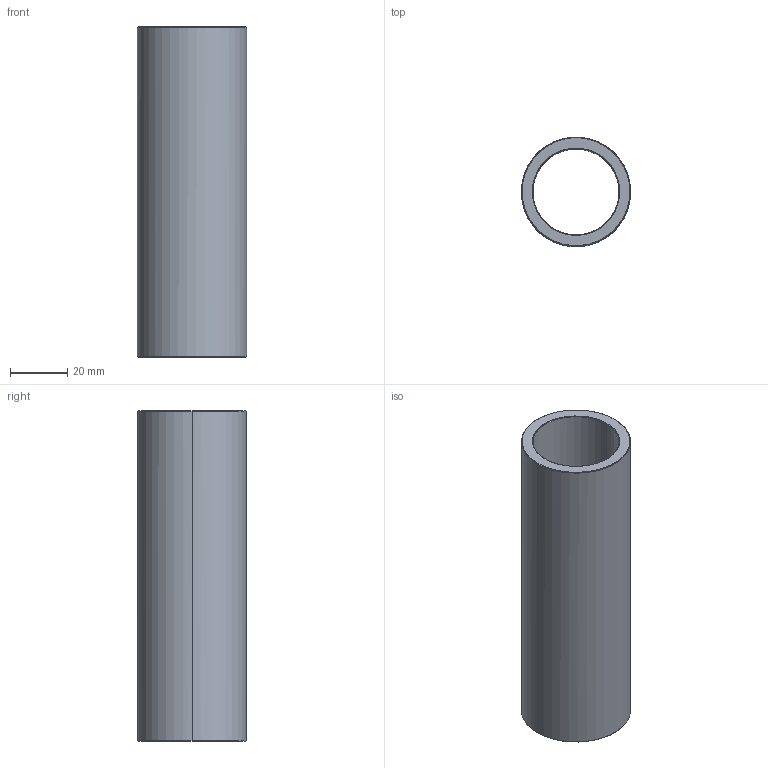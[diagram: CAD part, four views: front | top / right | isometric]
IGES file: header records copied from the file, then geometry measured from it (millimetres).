
Start section: Write IGES format                                    datakit 2008 (c)
Global section: file name: Unknown; native system: DATAKIT Converter; preprocessor: Unknown; author: Unknown; organization: Unknown; date: 950613.180003; units: millimetre
Bounding box: 38 x 37.89 x 115 mm (x, y, z)
Surface area: 25371.7 mm2 (no closed solid volume)
Topology: 0 solids, 0 shells, 14 faces, 56 edges, 56 vertices
Faces by surface type: revolution 12, bspline 2
